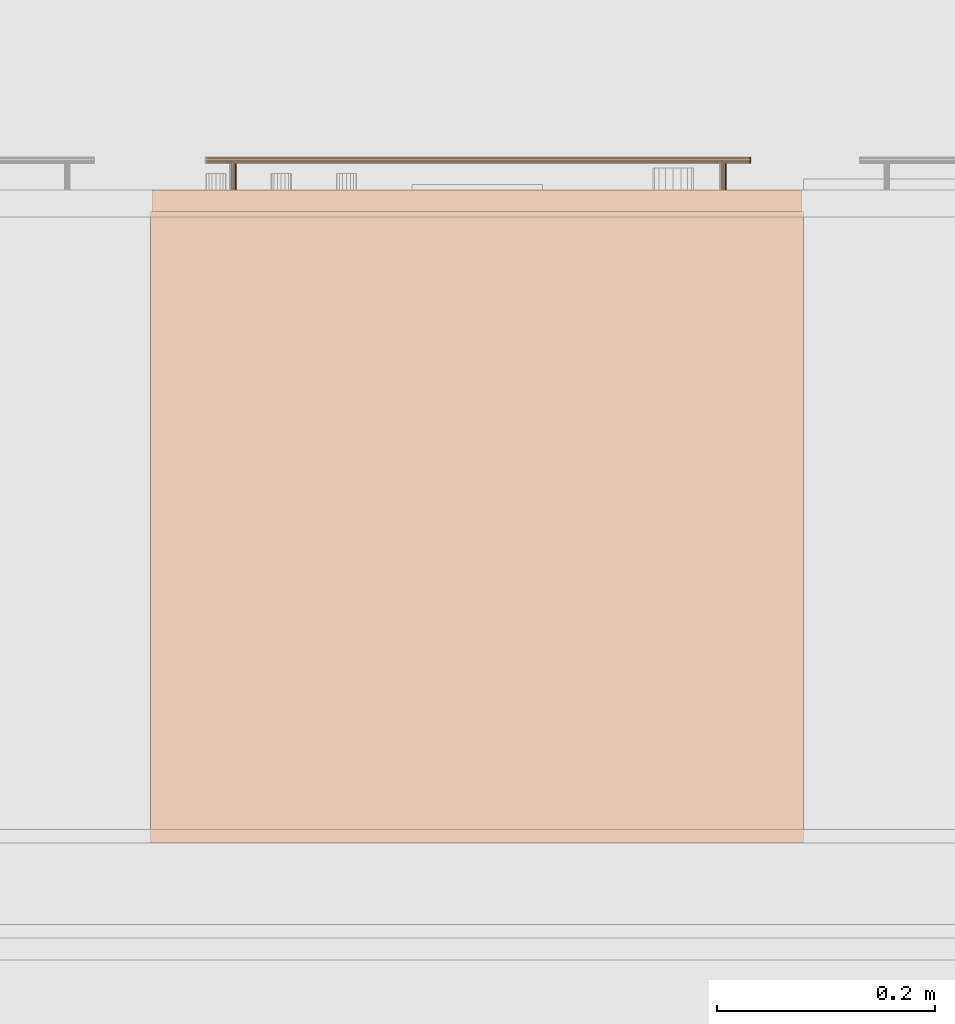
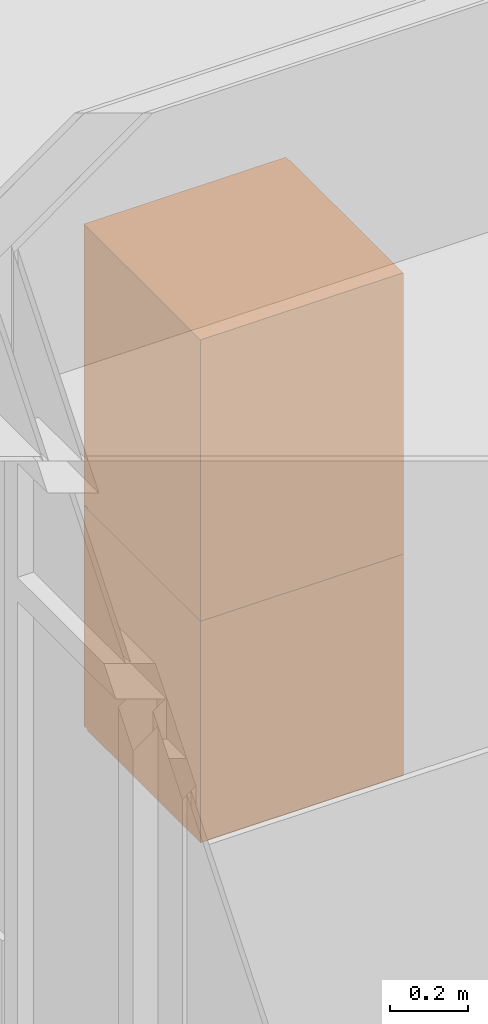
# One storey, part 136 of 167: 2 proxies.
"""IFC2X3 building model written with IfcOpenShell, lengths in millimetres."""

from ifc_helpers import new_model, entity, si_unit, converted_unit, derived_unit, money_unit, direction, frame, origin_with_axes, place, context, subcontext, project, spatial, open_shell, faceted_brep, surface_model, type_object, element, save


model = new_model("IFC2X3")

# Units and contexts
model_context = context("Model", 3, precision=0.01, world=origin_with_axes(), true_north=direction((0.0, 1.0)))
plan_context = context("Plan", 3, precision=0.01, world=origin_with_axes(), true_north=direction((0.0, 1.0)))
body_context = subcontext(model_context, "Body", "Model", "MODEL_VIEW")
ifc_project = project(units=[si_unit("LENGTHUNIT", "METRE", prefix="MILLI"), si_unit("AREAUNIT", "SQUARE_METRE"), si_unit("VOLUMEUNIT", "CUBIC_METRE"), converted_unit("PLANEANGLEUNIT", "DEGREE", entity("IfcPlaneAngleMeasure", 0.0174532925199), si_unit("PLANEANGLEUNIT", "RADIAN"), dimensions=[0, 0, 0, 0, 0, 0, 0]), si_unit("SOLIDANGLEUNIT", "STERADIAN"), money_unit("EUR"), converted_unit("TIMEUNIT", "Year", entity("IfcTimeMeasure", 31556926.0), si_unit("TIMEUNIT", "SECOND"), dimensions=[0, 0, 1, 0, 0, 0, 0]), si_unit("MASSUNIT", "GRAM", prefix="KILO"), si_unit("THERMODYNAMICTEMPERATUREUNIT", "DEGREE_CELSIUS"), si_unit("LUMINOUSINTENSITYUNIT", "LUMEN"), si_unit("ENERGYUNIT", "JOULE", prefix="MEGA"), derived_unit("THERMALCONDUCTANCEUNIT", [(si_unit("POWERUNIT", "WATT"), 1), (si_unit("LENGTHUNIT", "METRE"), -1), (si_unit("THERMODYNAMICTEMPERATUREUNIT", "KELVIN"), -1)]), derived_unit("SPECIFICHEATCAPACITYUNIT", [(si_unit("ENERGYUNIT", "JOULE"), 1), (si_unit("MASSUNIT", "GRAM", prefix="KILO"), -1), (si_unit("THERMODYNAMICTEMPERATUREUNIT", "KELVIN"), -1)]), derived_unit("MASSDENSITYUNIT", [(si_unit("MASSUNIT", "GRAM", prefix="KILO"), 1), (si_unit("VOLUMEUNIT", "CUBIC_METRE"), -1)])], contexts=[model_context, plan_context])

# Site, building, storey
site_placement = place(None, origin_with_axes())
site = spatial("IfcSite", under=ifc_project, at=site_placement, Name="Site", CompositionType="ELEMENT")
building_placement = place(site_placement, origin_with_axes())
building = spatial("IfcBuilding", under=site, at=building_placement, Name="Naam gebouw", CompositionType="ELEMENT")
storey_placement = place(building_placement, origin_with_axes())
storey = spatial("IfcBuildingStorey", under=building, at=storey_placement, Name="Begane grond", CompositionType="ELEMENT", Elevation=0.0)

# Proxies
building_element_proxy_type = type_object("IfcBuildingElementProxyType", Name="Kast wand 1D 24", PredefinedType="NOTDEFINED")
proxy_1_placement = place(storey_placement, frame((26625.0, 24566.7322881, 320.0), z_axis=(0.0, 0.0, 1.0), x_axis=(-1.0, 0.0, 0.0)))
element("IfcBuildingElementProxy", 1, at=proxy_1_placement, inside=storey, type_object=building_element_proxy_type, Name="__Object-x", context=body_context, shape_type="SurfaceModel", body=[
    faceted_brep([(0.0, 20.0, 2360.0), (20.0, 20.0, 2360.0), (20.0, 20.0, 2380.0), (0.0, 20.0, 2380.0), (0.0, 600.0, 2360.0), (20.0, 600.0, 2360.0), (580.0, 600.0, 2360.0), (600.0, 600.0, 2360.0), (600.0, 20.0, 2360.0), (580.0, 20.0, 2360.0), (580.0, 20.0, 2380.0), (600.0, 20.0, 2380.0), (600.0, 600.0, 2380.0), (580.0, 600.0, 2380.0), (20.0, 600.0, 2380.0), (0.0, 600.0, 2380.0)], [[[0, 1, 2, 3]], [[0, 4, 5, 6, 7, 8, 9, 1]], [[1, 9, 10, 2]], [[3, 2, 10, 11, 12, 13, 14, 15]], [[4, 0, 3, 15]], [[5, 4, 15, 14]], [[6, 5, 14, 13]], [[7, 6, 13, 12]], [[8, 7, 12, 11]], [[9, 8, 11, 10]]]),
    faceted_brep([(0.0, 20.0, 1500.0), (20.0, 20.0, 1500.0), (20.0, 20.0, 1520.0), (0.0, 20.0, 1520.0), (0.0, 600.0, 1500.0), (20.0, 600.0, 1500.0), (580.0, 600.0, 1500.0), (600.0, 600.0, 1500.0), (600.0, 20.0, 1500.0), (580.0, 20.0, 1500.0), (580.0, 20.0, 1520.0), (600.0, 20.0, 1520.0), (600.0, 600.0, 1520.0), (580.0, 600.0, 1520.0), (20.0, 600.0, 1520.0), (0.0, 600.0, 1520.0)], [[[0, 1, 2, 3]], [[0, 4, 5, 6, 7, 8, 9, 1]], [[1, 9, 10, 2]], [[3, 2, 10, 11, 12, 13, 14, 15]], [[4, 0, 3, 15]], [[5, 4, 15, 14]], [[6, 5, 14, 13]], [[7, 6, 13, 12]], [[8, 7, 12, 11]], [[9, 8, 11, 10]]]),
    faceted_brep([(0.0, 20.0, 1520.0), (20.0, 20.0, 1520.0), (20.0, 20.0, 2360.0), (0.0, 20.0, 2360.0), (0.0, 600.0, 1520.0), (600.0, 600.0, 1520.0), (600.0, 20.0, 1520.0), (580.0, 20.0, 1520.0), (580.0, 580.0, 1520.0), (20.0, 580.0, 1520.0), (20.0, 580.0, 2360.0), (580.0, 580.0, 2360.0), (580.0, 20.0, 2360.0), (600.0, 20.0, 2360.0), (600.0, 600.0, 2360.0), (0.0, 600.0, 2360.0)], [[[0, 1, 2, 3]], [[0, 4, 5, 6, 7, 8, 9, 1]], [[1, 9, 10, 2]], [[3, 2, 10, 11, 12, 13, 14, 15]], [[4, 0, 3, 15]], [[5, 4, 15, 14]], [[6, 5, 14, 13]], [[7, 6, 13, 12]], [[8, 7, 12, 11]], [[9, 8, 11, 10]]]),
    faceted_brep([(580.0, 20.0, 1773.33333333), (580.0, 580.0, 1773.33333333), (580.0, 580.0, 1793.33333333), (580.0, 20.0, 1793.33333333), (20.0, 20.0, 1773.33333333), (20.0, 580.0, 1773.33333333), (20.0, 580.0, 1793.33333333), (20.0, 20.0, 1793.33333333)], [[[0, 1, 2, 3]], [[0, 4, 5, 1]], [[1, 5, 6, 2]], [[3, 2, 6, 7]], [[4, 0, 3, 7]], [[5, 4, 7, 6]]]),
    faceted_brep([(580.0, 20.0, 2066.66666667), (580.0, 580.0, 2066.66666667), (580.0, 580.0, 2086.66666667), (580.0, 20.0, 2086.66666667), (20.0, 20.0, 2066.66666667), (20.0, 580.0, 2066.66666667), (20.0, 580.0, 2086.66666667), (20.0, 20.0, 2086.66666667)], [[[0, 1, 2, 3]], [[0, 4, 5, 1]], [[1, 5, 6, 2]], [[3, 2, 6, 7]], [[4, 0, 3, 7]], [[5, 4, 7, 6]]]),
    faceted_brep([(1.5, 20.0, 1501.5), (598.5, 20.0, 1501.5), (598.5, 0.0, 1501.5), (1.5, 0.0, 1501.5), (1.5, 20.0, 2378.5), (598.5, 20.0, 2378.5), (598.5, 0.0, 2378.5), (1.5, 0.0, 2378.5)], [[[0, 1, 2, 3]], [[0, 4, 5, 1]], [[1, 5, 6, 2]], [[3, 2, 6, 7]], [[4, 0, 3, 7]], [[5, 4, 7, 6]]]),
    faceted_brep([(48.5, -28.1480502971, 1548.7283614), (48.5, -29.1213203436, 1549.37867966), (48.5, -29.7716385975, 1550.3519497), (48.5, -30.0, 1551.5), (48.5, -29.7716385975, 1552.6480503), (48.5, -29.1213203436, 1553.62132034), (48.5, -28.1480502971, 1554.2716386), (48.5, -27.0, 1554.5), (48.5, -25.8519497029, 1554.2716386), (48.5, -24.8786796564, 1553.62132034), (48.5, -24.2283614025, 1552.6480503), (48.5, -24.0, 1551.5), (48.5, -24.2283614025, 1550.3519497), (48.5, -24.8786796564, 1549.37867966), (48.5, -25.8519497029, 1548.7283614), (48.5, -27.0, 1548.5), (548.5, -28.1480502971, 1548.7283614), (548.5, -29.1213203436, 1549.37867966), (548.5, -29.7716385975, 1550.3519497), (548.5, -30.0, 1551.5), (548.5, -29.7716385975, 1552.6480503), (548.5, -29.1213203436, 1553.62132034), (548.5, -28.1480502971, 1554.2716386), (548.5, -27.0, 1554.5), (548.5, -25.8519497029, 1554.2716386), (548.5, -24.8786796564, 1553.62132034), (548.5, -24.2283614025, 1552.6480503), (548.5, -24.0, 1551.5), (548.5, -24.2283614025, 1550.3519497), (548.5, -24.8786796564, 1549.37867966), (548.5, -25.8519497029, 1548.7283614), (548.5, -27.0, 1548.5)], [[[0, 1, 2, 3, 4, 5, 6, 7, 8, 9, 10, 11, 12, 13, 14, 15]], [[1, 0, 16, 17]], [[2, 1, 17, 18]], [[3, 2, 18, 19]], [[4, 3, 19, 20]], [[5, 4, 20, 21]], [[6, 5, 21, 22]], [[7, 6, 22, 23]], [[8, 7, 23, 24]], [[9, 8, 24, 25]], [[10, 9, 25, 26]], [[11, 10, 26, 27]], [[12, 11, 27, 28]], [[13, 12, 28, 29]], [[14, 13, 29, 30]], [[15, 14, 30, 31]], [[0, 15, 31, 16]], [[16, 31, 30, 29, 28, 27, 26, 25, 24, 23, 22, 21, 20, 19, 18, 17]]]),
    surface_model("IfcShellBasedSurfaceModel", [(71.1903011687, -24.156637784, 1550.54329142), (71.0, -24.0, 1551.5), (71.0, 0.0, 1551.5), (71.1903011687, 0.0, 1550.54329142), (71.1903011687, -24.156637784, 1552.45670858), (71.1903011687, 0.0, 1552.45670858), (71.732233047, 0.0, 1553.26776695), (72.5432914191, 0.0, 1553.80969883), (73.5, 0.0, 1554.0), (74.4567085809, 0.0, 1553.80969883), (75.267766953, 0.0, 1553.26776695), (75.8096988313, 0.0, 1552.45670858), (76.0, 0.0, 1551.5), (75.8096988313, 0.0, 1550.54329142), (75.267766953, 0.0, 1549.73223305), (74.4567085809, 0.0, 1549.19030117), (73.5, 0.0, 1549.0), (72.5432914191, 0.0, 1549.19030117), (71.732233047, 0.0, 1549.73223305), (71.732233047, -24.5761600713, 1549.73223305), (71.732233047, -24.5761600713, 1553.26776695), (72.5432914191, -25.0855049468, 1553.80969883), (73.5, -25.3416876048, 1554.0), (74.4567085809, -25.0855049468, 1553.80969883), (75.267766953, -24.5761600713, 1553.26776695), (75.8096988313, -24.156637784, 1552.45670858), (76.0, -24.0, 1551.5), (75.8096988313, -24.156637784, 1550.54329142), (75.267766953, -24.5761600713, 1549.73223305), (74.4567085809, -25.0855049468, 1549.19030117), (73.5, -25.3416876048, 1549.0), (72.5432914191, -25.0855049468, 1549.19030117)], [open_shell([[[0, 1, 2, 3]], [[1, 4, 5, 2]], [[3, 2, 5, 6, 7, 8, 9, 10, 11, 12, 13, 14, 15, 16, 17, 18]], [[19, 0, 3, 18]], [[4, 20, 6, 5]], [[20, 21, 7, 6]], [[21, 22, 8, 7]], [[22, 23, 9, 8]], [[23, 24, 10, 9]], [[24, 25, 11, 10]], [[25, 26, 12, 11]], [[26, 27, 13, 12]], [[27, 28, 14, 13]], [[28, 29, 15, 14]], [[29, 30, 16, 15]], [[30, 31, 17, 16]], [[31, 19, 18, 17]]])]),
    surface_model("IfcShellBasedSurfaceModel", [(521.190301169, -24.156637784, 1550.54329142), (521.0, -24.0, 1551.5), (521.0, 0.0, 1551.5), (521.190301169, 0.0, 1550.54329142), (521.190301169, -24.156637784, 1552.45670858), (521.190301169, 0.0, 1552.45670858), (521.732233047, 0.0, 1553.26776695), (522.543291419, 0.0, 1553.80969883), (523.5, 0.0, 1554.0), (524.456708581, 0.0, 1553.80969883), (525.267766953, 0.0, 1553.26776695), (525.809698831, 0.0, 1552.45670858), (526.0, 0.0, 1551.5), (525.809698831, 0.0, 1550.54329142), (525.267766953, 0.0, 1549.73223305), (524.456708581, 0.0, 1549.19030117), (523.5, 0.0, 1549.0), (522.543291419, 0.0, 1549.19030117), (521.732233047, 0.0, 1549.73223305), (521.732233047, -24.5761600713, 1549.73223305), (521.732233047, -24.5761600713, 1553.26776695), (522.543291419, -25.0855049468, 1553.80969883), (523.5, -25.3416876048, 1554.0), (524.456708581, -25.0855049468, 1553.80969883), (525.267766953, -24.5761600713, 1553.26776695), (525.809698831, -24.156637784, 1552.45670858), (526.0, -24.0, 1551.5), (525.809698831, -24.156637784, 1550.54329142), (525.267766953, -24.5761600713, 1549.73223305), (524.456708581, -25.0855049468, 1549.19030117), (523.5, -25.3416876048, 1549.0), (522.543291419, -25.0855049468, 1549.19030117)], [open_shell([[[0, 1, 2, 3]], [[1, 4, 5, 2]], [[3, 2, 5, 6, 7, 8, 9, 10, 11, 12, 13, 14, 15, 16, 17, 18]], [[19, 0, 3, 18]], [[4, 20, 6, 5]], [[20, 21, 7, 6]], [[21, 22, 8, 7]], [[22, 23, 9, 8]], [[23, 24, 10, 9]], [[24, 25, 11, 10]], [[25, 26, 12, 11]], [[26, 27, 13, 12]], [[27, 28, 14, 13]], [[28, 29, 15, 14]], [[29, 30, 16, 15]], [[30, 31, 17, 16]], [[31, 19, 18, 17]]])]),
])
proxy_2_placement = place(storey_placement, frame((26625.0, 24566.7322881, -372.902459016), z_axis=(0.0, 0.0, 1.0), x_axis=(-1.0, 0.0, 0.0)))
element("IfcBuildingElementProxy", 2, at=proxy_2_placement, inside=storey, type_object=building_element_proxy_type, Name="__Object-x", context=body_context, shape_type="SurfaceModel", body=[
    faceted_brep([(0.0, 20.0, 2172.90245902), (20.0, 20.0, 2172.90245902), (20.0, 20.0, 2192.90245902), (0.0, 20.0, 2192.90245902), (0.0, 600.0, 2172.90245902), (20.0, 600.0, 2172.90245902), (580.0, 600.0, 2172.90245902), (600.0, 600.0, 2172.90245902), (600.0, 20.0, 2172.90245902), (580.0, 20.0, 2172.90245902), (580.0, 20.0, 2192.90245902), (600.0, 20.0, 2192.90245902), (600.0, 600.0, 2192.90245902), (580.0, 600.0, 2192.90245902), (20.0, 600.0, 2192.90245902), (0.0, 600.0, 2192.90245902)], [[[0, 1, 2, 3]], [[0, 4, 5, 6, 7, 8, 9, 1]], [[1, 9, 10, 2]], [[3, 2, 10, 11, 12, 13, 14, 15]], [[4, 0, 3, 15]], [[5, 4, 15, 14]], [[6, 5, 14, 13]], [[7, 6, 13, 12]], [[8, 7, 12, 11]], [[9, 8, 11, 10]]]),
    faceted_brep([(0.0, 20.0, 1500.0), (20.0, 20.0, 1500.0), (20.0, 20.0, 1520.0), (0.0, 20.0, 1520.0), (0.0, 600.0, 1500.0), (20.0, 600.0, 1500.0), (580.0, 600.0, 1500.0), (600.0, 600.0, 1500.0), (600.0, 20.0, 1500.0), (580.0, 20.0, 1500.0), (580.0, 20.0, 1520.0), (600.0, 20.0, 1520.0), (600.0, 600.0, 1520.0), (580.0, 600.0, 1520.0), (20.0, 600.0, 1520.0), (0.0, 600.0, 1520.0)], [[[0, 1, 2, 3]], [[0, 4, 5, 6, 7, 8, 9, 1]], [[1, 9, 10, 2]], [[3, 2, 10, 11, 12, 13, 14, 15]], [[4, 0, 3, 15]], [[5, 4, 15, 14]], [[6, 5, 14, 13]], [[7, 6, 13, 12]], [[8, 7, 12, 11]], [[9, 8, 11, 10]]]),
    faceted_brep([(0.0, 20.0, 1520.0), (20.0, 20.0, 1520.0), (20.0, 20.0, 2172.90245902), (0.0, 20.0, 2172.90245902), (0.0, 600.0, 1520.0), (600.0, 600.0, 1520.0), (600.0, 20.0, 1520.0), (580.0, 20.0, 1520.0), (580.0, 580.0, 1520.0), (20.0, 580.0, 1520.0), (20.0, 580.0, 2172.90245902), (580.0, 580.0, 2172.90245902), (580.0, 20.0, 2172.90245902), (600.0, 20.0, 2172.90245902), (600.0, 600.0, 2172.90245902), (0.0, 600.0, 2172.90245902)], [[[0, 1, 2, 3]], [[0, 4, 5, 6, 7, 8, 9, 1]], [[1, 9, 10, 2]], [[3, 2, 10, 11, 12, 13, 14, 15]], [[4, 0, 3, 15]], [[5, 4, 15, 14]], [[6, 5, 14, 13]], [[7, 6, 13, 12]], [[8, 7, 12, 11]], [[9, 8, 11, 10]]]),
    faceted_brep([(580.0, 20.0, 1710.96748634), (580.0, 580.0, 1710.96748634), (580.0, 580.0, 1730.96748634), (580.0, 20.0, 1730.96748634), (20.0, 20.0, 1710.96748634), (20.0, 580.0, 1710.96748634), (20.0, 580.0, 1730.96748634), (20.0, 20.0, 1730.96748634)], [[[0, 1, 2, 3]], [[0, 4, 5, 1]], [[1, 5, 6, 2]], [[3, 2, 6, 7]], [[4, 0, 3, 7]], [[5, 4, 7, 6]]]),
    faceted_brep([(580.0, 20.0, 1941.93497268), (580.0, 580.0, 1941.93497268), (580.0, 580.0, 1961.93497268), (580.0, 20.0, 1961.93497268), (20.0, 20.0, 1941.93497268), (20.0, 580.0, 1941.93497268), (20.0, 580.0, 1961.93497268), (20.0, 20.0, 1961.93497268)], [[[0, 1, 2, 3]], [[0, 4, 5, 1]], [[1, 5, 6, 2]], [[3, 2, 6, 7]], [[4, 0, 3, 7]], [[5, 4, 7, 6]]]),
    faceted_brep([(1.5, 20.0, 1501.5), (598.5, 20.0, 1501.5), (598.5, 0.0, 1501.5), (1.5, 0.0, 1501.5), (1.5, 20.0, 2191.40245902), (598.5, 20.0, 2191.40245902), (598.5, 0.0, 2191.40245902), (1.5, 0.0, 2191.40245902)], [[[0, 1, 2, 3]], [[0, 4, 5, 1]], [[1, 5, 6, 2]], [[3, 2, 6, 7]], [[4, 0, 3, 7]], [[5, 4, 7, 6]]]),
    faceted_brep([(48.5, -28.1480502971, 1548.7283614), (48.5, -29.1213203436, 1549.37867966), (48.5, -29.7716385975, 1550.3519497), (48.5, -30.0, 1551.5), (48.5, -29.7716385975, 1552.6480503), (48.5, -29.1213203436, 1553.62132034), (48.5, -28.1480502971, 1554.2716386), (48.5, -27.0, 1554.5), (48.5, -25.8519497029, 1554.2716386), (48.5, -24.8786796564, 1553.62132034), (48.5, -24.2283614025, 1552.6480503), (48.5, -24.0, 1551.5), (48.5, -24.2283614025, 1550.3519497), (48.5, -24.8786796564, 1549.37867966), (48.5, -25.8519497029, 1548.7283614), (48.5, -27.0, 1548.5), (548.5, -28.1480502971, 1548.7283614), (548.5, -29.1213203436, 1549.37867966), (548.5, -29.7716385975, 1550.3519497), (548.5, -30.0, 1551.5), (548.5, -29.7716385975, 1552.6480503), (548.5, -29.1213203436, 1553.62132034), (548.5, -28.1480502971, 1554.2716386), (548.5, -27.0, 1554.5), (548.5, -25.8519497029, 1554.2716386), (548.5, -24.8786796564, 1553.62132034), (548.5, -24.2283614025, 1552.6480503), (548.5, -24.0, 1551.5), (548.5, -24.2283614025, 1550.3519497), (548.5, -24.8786796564, 1549.37867966), (548.5, -25.8519497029, 1548.7283614), (548.5, -27.0, 1548.5)], [[[0, 1, 2, 3, 4, 5, 6, 7, 8, 9, 10, 11, 12, 13, 14, 15]], [[1, 0, 16, 17]], [[2, 1, 17, 18]], [[3, 2, 18, 19]], [[4, 3, 19, 20]], [[5, 4, 20, 21]], [[6, 5, 21, 22]], [[7, 6, 22, 23]], [[8, 7, 23, 24]], [[9, 8, 24, 25]], [[10, 9, 25, 26]], [[11, 10, 26, 27]], [[12, 11, 27, 28]], [[13, 12, 28, 29]], [[14, 13, 29, 30]], [[15, 14, 30, 31]], [[0, 15, 31, 16]], [[16, 31, 30, 29, 28, 27, 26, 25, 24, 23, 22, 21, 20, 19, 18, 17]]]),
    surface_model("IfcShellBasedSurfaceModel", [(71.1903011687, -24.156637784, 1550.54329142), (71.0, -24.0, 1551.5), (71.0, 0.0, 1551.5), (71.1903011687, 0.0, 1550.54329142), (71.1903011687, -24.156637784, 1552.45670858), (71.1903011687, 0.0, 1552.45670858), (71.732233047, 0.0, 1553.26776695), (72.5432914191, 0.0, 1553.80969883), (73.5, 0.0, 1554.0), (74.4567085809, 0.0, 1553.80969883), (75.267766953, 0.0, 1553.26776695), (75.8096988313, 0.0, 1552.45670858), (76.0, 0.0, 1551.5), (75.8096988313, 0.0, 1550.54329142), (75.267766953, 0.0, 1549.73223305), (74.4567085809, 0.0, 1549.19030117), (73.5, 0.0, 1549.0), (72.5432914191, 0.0, 1549.19030117), (71.732233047, 0.0, 1549.73223305), (71.732233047, -24.5761600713, 1549.73223305), (71.732233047, -24.5761600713, 1553.26776695), (72.5432914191, -25.0855049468, 1553.80969883), (73.5, -25.3416876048, 1554.0), (74.4567085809, -25.0855049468, 1553.80969883), (75.267766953, -24.5761600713, 1553.26776695), (75.8096988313, -24.156637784, 1552.45670858), (76.0, -24.0, 1551.5), (75.8096988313, -24.156637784, 1550.54329142), (75.267766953, -24.5761600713, 1549.73223305), (74.4567085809, -25.0855049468, 1549.19030117), (73.5, -25.3416876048, 1549.0), (72.5432914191, -25.0855049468, 1549.19030117)], [open_shell([[[0, 1, 2, 3]], [[1, 4, 5, 2]], [[3, 2, 5, 6, 7, 8, 9, 10, 11, 12, 13, 14, 15, 16, 17, 18]], [[19, 0, 3, 18]], [[4, 20, 6, 5]], [[20, 21, 7, 6]], [[21, 22, 8, 7]], [[22, 23, 9, 8]], [[23, 24, 10, 9]], [[24, 25, 11, 10]], [[25, 26, 12, 11]], [[26, 27, 13, 12]], [[27, 28, 14, 13]], [[28, 29, 15, 14]], [[29, 30, 16, 15]], [[30, 31, 17, 16]], [[31, 19, 18, 17]]])]),
    surface_model("IfcShellBasedSurfaceModel", [(521.190301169, -24.156637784, 1550.54329142), (521.0, -24.0, 1551.5), (521.0, 0.0, 1551.5), (521.190301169, 0.0, 1550.54329142), (521.190301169, -24.156637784, 1552.45670858), (521.190301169, 0.0, 1552.45670858), (521.732233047, 0.0, 1553.26776695), (522.543291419, 0.0, 1553.80969883), (523.5, 0.0, 1554.0), (524.456708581, 0.0, 1553.80969883), (525.267766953, 0.0, 1553.26776695), (525.809698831, 0.0, 1552.45670858), (526.0, 0.0, 1551.5), (525.809698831, 0.0, 1550.54329142), (525.267766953, 0.0, 1549.73223305), (524.456708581, 0.0, 1549.19030117), (523.5, 0.0, 1549.0), (522.543291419, 0.0, 1549.19030117), (521.732233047, 0.0, 1549.73223305), (521.732233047, -24.5761600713, 1549.73223305), (521.732233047, -24.5761600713, 1553.26776695), (522.543291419, -25.0855049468, 1553.80969883), (523.5, -25.3416876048, 1554.0), (524.456708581, -25.0855049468, 1553.80969883), (525.267766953, -24.5761600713, 1553.26776695), (525.809698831, -24.156637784, 1552.45670858), (526.0, -24.0, 1551.5), (525.809698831, -24.156637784, 1550.54329142), (525.267766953, -24.5761600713, 1549.73223305), (524.456708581, -25.0855049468, 1549.19030117), (523.5, -25.3416876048, 1549.0), (522.543291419, -25.0855049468, 1549.19030117)], [open_shell([[[0, 1, 2, 3]], [[1, 4, 5, 2]], [[3, 2, 5, 6, 7, 8, 9, 10, 11, 12, 13, 14, 15, 16, 17, 18]], [[19, 0, 3, 18]], [[4, 20, 6, 5]], [[20, 21, 7, 6]], [[21, 22, 8, 7]], [[22, 23, 9, 8]], [[23, 24, 10, 9]], [[24, 25, 11, 10]], [[25, 26, 12, 11]], [[26, 27, 13, 12]], [[27, 28, 14, 13]], [[28, 29, 15, 14]], [[29, 30, 16, 15]], [[30, 31, 17, 16]], [[31, 19, 18, 17]]])]),
])

save(model, "model.ifc")
